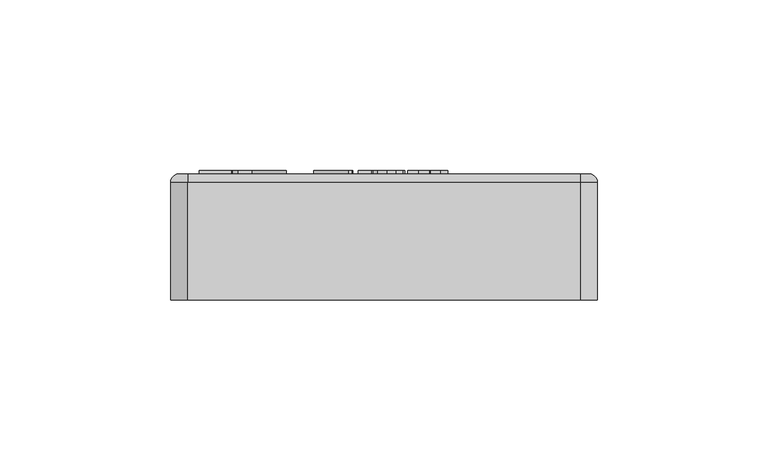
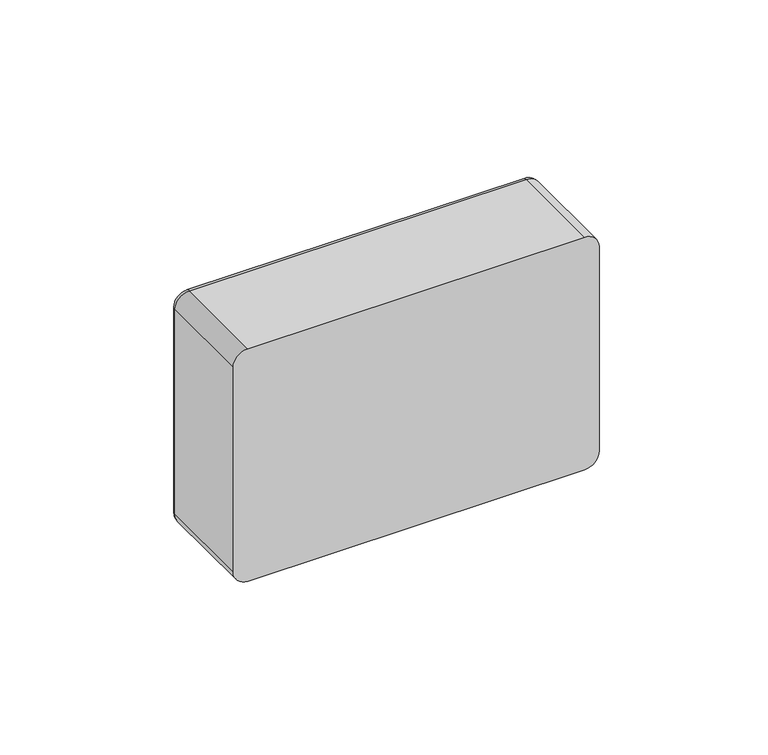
"""IFC4 building model written with IfcOpenShell, lengths in millimetres: proxy geometry, RBZ_МодульСопряжения_Рубеж_МС-1(2) : МС-1."""

from ifc_helpers import new_model, si_unit, point, frame, frame_2d, origin, place, context, project, spatial, polyline, circle_curve, ellipse_curve, trimmed, segment, composite_curve, outline, extrude, source, transform, mapped, element, save
from ifc_brep_helpers import plane_surface, cylinder_surface, revolved_surface, advanced_brep


def electrical_equipment_8cd67339(model_context):
    return source(origin(), model_context, "Body", "SolidModel", [
        extrude(outline(composite_curve([segment(trimmed(circle_curve(frame_2d((41.0715355, -15.5310303)), 5.0), [point((41.0715355, -10.5310303))], [point((41.0715355, -20.5310303))], False, "CARTESIAN"), True, "CONTINUOUS"), segment(trimmed(circle_curve(frame_2d((41.0715355, -15.5310303)), 5.0), [point((41.0715355, -20.5310303))], [point((41.0715355, -10.5310303))], False, "CARTESIAN"), True, "CONTINUOUS")], self_intersect=False)), frame((0.0, 37.0, 0.0), z_axis=(0.0, 1.0, 0.0), x_axis=(0.0, 0.0, 1.0)), (0.0, 0.0, 1.0), 1.0),
        extrude(outline(composite_curve([segment(trimmed(circle_curve(frame_2d((57.9165344, -33.5937399)), 5.0), [point((57.9165344, -28.5937399))], [point((57.9165344, -38.5937399))], False, "CARTESIAN"), True, "CONTINUOUS"), segment(trimmed(circle_curve(frame_2d((57.9165344, -33.5937399)), 5.0), [point((57.9165344, -38.5937399))], [point((57.9165344, -28.5937399))], False, "CARTESIAN"), True, "CONTINUOUS")], self_intersect=False)), frame((0.0, 37.0, 0.0), z_axis=(0.0, 1.0, 0.0), x_axis=(0.0, 0.0, 1.0)), (0.0, 0.0, 1.0), 1.0),
        extrude(outline(composite_curve([segment(trimmed(circle_curve(frame_2d((41.0715355, -33.5937399)), 5.0), [point((41.0715355, -28.5937399))], [point((41.0715355, -38.5937399))], False, "CARTESIAN"), True, "CONTINUOUS"), segment(trimmed(circle_curve(frame_2d((41.0715355, -33.5937399)), 5.0), [point((41.0715355, -38.5937399))], [point((41.0715355, -28.5937399))], False, "CARTESIAN"), True, "CONTINUOUS")], self_intersect=False)), frame((0.0, 37.0, 0.0), z_axis=(0.0, 1.0, 0.0), x_axis=(0.0, 0.0, 1.0)), (0.0, 0.0, 1.0), 1.0),
        extrude(outline(polyline([(16.8535228, -44.5809835), (16.8535228, -54.095442), (12.2150397, -52.2213731), (12.2150397, -50.4073043), (7.3266777, -53.9589072), (7.3266777, -51.3726746), (9.499446, -49.9616623), (9.499446, -38.6689562), (19.7294115, -42.8021305), (17.6170136, -44.3368775), (11.5052734, -41.8675742), (11.5052734, -48.3058879), (13.9791295, -46.699347), (13.9791295, -50.735573), (14.8288565, -51.078885), (14.8288565, -46.0654671), (12.2150397, -45.0094166), (12.2150397, -42.7069147), (16.8535228, -44.5809835)])), frame((0.0, 37.0, 0.0), z_axis=(0.0, 1.0, 0.0), x_axis=(0.0, 0.0, 1.0)), (0.0, 0.0, 1.0), 1.0),
        extrude(outline(polyline([(8.679106, 12.7656817), (8.679106, 14.709033), (17.1053555, 15.1138978), (8.679106, 16.6523842), (8.679106, 18.6235699), (18.8817, 16.538516), (18.8817, 13.5627594), (11.5738896, 13.2515195), (18.8817, 10.0556177), (18.8817, 6.9280368), (8.679106, 8.8435536), (8.679106, 10.8223305), (17.1002947, 9.1218982), (8.679106, 12.7656817)])), frame((0.0, 37.0, 0.0), z_axis=(0.0, 1.0, 0.0), x_axis=(0.0, 0.0, 1.0)), (0.0, 0.0, 1.0), 1.0),
        extrude(outline(polyline([(11.9180247, -0.5138851), (11.670045, -2.4572363), (9.3268897, -0.6328141), (8.51716, 2.2164222), (9.64066, 5.0909626), (12.9023524, 6.1258983), (16.078011, 5.4224457), (18.2807287, 3.4727684), (19.0436459, 0.7589088), (18.1807777, -1.9068732), (15.8300312, -3.1050201), (15.6427812, -1.1616688), (16.8788842, -0.4999678), (17.2622406, 0.8069865), (16.7346511, 2.4757887), (15.0873573, 3.7169525), (12.8517443, 4.1825471), (10.9640619, 3.576515), (10.2985653, 2.0671283), (10.7072258, 0.5299071), (11.9180247, -0.5138851)])), frame((0.0, 37.0, 0.0), z_axis=(0.0, 1.0, 0.0), x_axis=(0.0, 0.0, 1.0)), (0.0, 0.0, 1.0), 1.0),
        extrude(outline(polyline([(13.3755381, -3.5908579), (13.3755381, -7.4775603), (11.4321869, -7.1536685), (11.4321869, -3.266966), (13.3755381, -3.5908579)])), frame((0.0, 37.0, 0.0), z_axis=(0.0, 1.0, 0.0), x_axis=(0.0, 0.0, 1.0)), (0.0, 0.0, 1.0), 1.0),
        extrude(outline(polyline([(14.5091597, -9.0970197), (16.290565, -9.4209116), (18.8817, -13.3076141), (18.8817, -14.6234248), (8.679106, -12.53331), (8.679106, -10.5545331), (15.7186934, -11.9968641), (14.9823455, -10.5570635), (14.5091597, -9.0970197)])), frame((0.0, 37.0, 0.0), z_axis=(0.0, 1.0, 0.0), x_axis=(0.0, 0.0, 1.0)), (0.0, 0.0, 1.0), 1.0),
        extrude(outline(composite_curve([segment(trimmed(circle_curve(frame_2d((74.0, -52.5)), 5.0), [point((79.0, -52.5))], [point((74.0, -57.5))], False, "CARTESIAN"), True, "CONTINUOUS"), segment(polyline([(74.0, -57.5), (10.0, -57.5)]), True, "CONTINUOUS"), segment(trimmed(circle_curve(frame_2d((10.0, -52.5)), 5.0), [point((10.0, -57.5))], [point((5.0, -52.5))], False, "CARTESIAN"), True, "CONTINUOUS"), segment(polyline([(5.0, -52.5), (5.0, 22.5)]), True, "CONTINUOUS"), segment(trimmed(circle_curve(frame_2d((10.0, 22.5)), 5.0), [point((5.0, 22.5))], [point((10.0, 27.5))], False, "CARTESIAN"), True, "CONTINUOUS"), segment(polyline([(10.0, 27.5), (15.0, 27.5)]), True, "CONTINUOUS"), segment(trimmed(circle_curve(frame_2d((25.0, 27.5)), 10.0), [point((15.0, 27.5))], [point((35.0, 27.5))], False, "CARTESIAN"), True, "CONTINUOUS"), segment(polyline([(35.0, 27.5), (74.0, 27.5)]), True, "CONTINUOUS"), segment(trimmed(circle_curve(frame_2d((74.0, 22.5)), 5.0), [point((74.0, 27.5))], [point((79.0, 22.5))], False, "CARTESIAN"), True, "CONTINUOUS"), segment(polyline([(79.0, 22.5), (79.0, -52.5)]), True, "CONTINUOUS")], self_intersect=False)), frame((0.0, 34.8836616, 0.0), z_axis=(0.0, 1.0, 0.0), x_axis=(0.0, 0.0, 1.0)), (0.0, 0.0, 1.0), 2.1163384),
        advanced_brep(
        [(-57.5, 37.0, 2.5), (-60.0, 37.0, 5.0), (-60.0, 37.0, 79.0), (-57.5, 37.0, 81.5), (57.5, 37.0, 81.5), (60.0, 37.0, 79.0), (60.0, 37.0, 5.0), (57.5, 37.0, 2.5), (27.5, 37.0, 74.0), (22.5, 37.0, 79.0), (-52.5, 37.0, 79.0), (-57.5, 37.0, 74.0), (-57.5, 37.0, 10.0), (-52.5, 37.0, 5.0), (22.5, 37.0, 5.0), (27.5, 37.0, 10.0), (27.5, 37.0, 15.0), (27.5, 37.0, 35.0), (-57.5, 0.0, 84.0), (-62.5, 0.0, 79.0), (-62.5, 0.0, 5.0), (-57.5, 0.0, 0.0), (57.5, 0.0, 0.0), (62.5, 0.0, 5.0), (62.5, 0.0, 79.0), (57.5, 0.0, 84.0), (57.5, 34.5, 84.0), (-57.5, 34.5, 84.0), (62.5, 34.5000019, 79.0), (62.5, 34.5, 5.0), (57.5, 34.5000016, 0.0), (-57.5, 34.5000019, 0.0), (-62.5, 34.5000019, 5.0), (-62.5, 34.5, 79.0), (22.5, 15.7482615, 79.0), (27.5, 15.7482615, 74.0), (27.5, 15.7482615, 35.0), (27.5, 15.7482615, 15.0), (27.5, 15.7482615, 10.0), (22.5, 15.7482615, 5.0), (-52.5, 15.7482615, 5.0), (-57.5, 15.7482615, 10.0), (-57.5, 15.7482615, 74.0), (-52.5, 15.7482615, 79.0)],
        [
            (0, 1, circle_curve(frame((-57.5, 37.0, 5.0), z_axis=(0.0, 1.0, 0.0), x_axis=(0.0, 0.0, -1.0)), 2.5)),
            (1, 2),
            (2, 3, circle_curve(frame((-57.5, 37.0, 79.0), z_axis=(0.0, 1.0, 0.0), x_axis=(-1.0, 0.0, 0.0)), 2.5)),
            (3, 4),
            (4, 5, circle_curve(frame((57.5, 37.0, 79.0), z_axis=(0.0, 1.0, 0.0), x_axis=(0.0, 0.0, 1.0)), 2.5)),
            (5, 6),
            (6, 7, circle_curve(frame((57.5, 37.0, 5.0), z_axis=(0.0, 1.0, 0.0), x_axis=(1.0, 0.0, 0.0)), 2.5)),
            (7, 0),
            (8, 9, circle_curve(frame((22.5, 37.0, 74.0), z_axis=(0.0, -1.0, 0.0), x_axis=(-1.0, 0.0, 0.0)), 5.0)),
            (9, 10),
            (10, 11, circle_curve(frame((-52.5, 37.0, 74.0), z_axis=(0.0, -1.0, 0.0), x_axis=(-1.0, 0.0, 0.0)), 5.0)),
            (11, 12),
            (12, 13, circle_curve(frame((-52.5, 37.0, 10.0), z_axis=(0.0, -1.0, 0.0), x_axis=(-1.0, 0.0, 0.0)), 5.0)),
            (13, 14),
            (14, 15, circle_curve(frame((22.5, 37.0, 10.0), z_axis=(0.0, -1.0, 0.0), x_axis=(-1.0, 0.0, 0.0)), 5.0)),
            (15, 16),
            (16, 17, circle_curve(frame((27.5, 37.0, 25.0), z_axis=(0.0, -1.0, 0.0), x_axis=(-1.0, 0.0, 0.0)), 10.0)),
            (17, 8),
            (18, 19, circle_curve(frame((-57.5, 0.0, 79.0), z_axis=(0.0, -1.0, 0.0), x_axis=(-1.0, 0.0, 0.0)), 5.0)),
            (19, 20),
            (20, 21, circle_curve(frame((-57.5, 0.0, 5.0), z_axis=(0.0, -1.0, 0.0), x_axis=(-1.0, 0.0, 0.0)), 5.0)),
            (21, 22),
            (22, 23, circle_curve(frame((57.5, 0.0, 5.0), z_axis=(0.0, -1.0, 0.0), x_axis=(-1.0, 0.0, 0.0)), 5.0)),
            (23, 24),
            (24, 25, circle_curve(frame((57.5, 0.0, 79.0), z_axis=(0.0, -1.0, 0.0), x_axis=(-1.0, 0.0, 0.0)), 5.0)),
            (25, 18),
            (25, 26),
            (26, 27),
            (27, 18),
            (24, 28),
            (28, 26, circle_curve(frame((57.5, 34.5, 79.0), z_axis=(0.0, -1.0, 0.0), x_axis=(-1.0, 0.0, 0.0)), 5.0)),
            (23, 29),
            (29, 28),
            (22, 30),
            (30, 29, circle_curve(frame((57.5, 34.5, 5.0), z_axis=(0.0, -1.0, 0.0), x_axis=(-1.0, 0.0, 0.0)), 5.0)),
            (21, 31),
            (31, 30),
            (20, 32),
            (32, 31, circle_curve(frame((-57.5, 34.5, 5.0), z_axis=(0.0, -1.0, 0.0), x_axis=(-1.0, 0.0, 0.0)), 5.0)),
            (19, 33),
            (33, 32),
            (27, 33, circle_curve(frame((-57.5, 34.5, 79.0), z_axis=(0.0, -1.0, 0.0), x_axis=(-1.0, 0.0, 0.0)), 5.0)),
            (34, 35, circle_curve(frame((22.5, 15.7482615, 74.0), z_axis=(0.0, 1.0, 0.0), x_axis=(-1.0, 0.0, 0.0)), 5.0)),
            (35, 36),
            (36, 37, circle_curve(frame((27.5, 15.7482615, 25.0), z_axis=(0.0, 1.0, 0.0), x_axis=(-1.0, 0.0, 0.0)), 10.0)),
            (37, 38),
            (38, 39, circle_curve(frame((22.5, 15.7482615, 10.0), z_axis=(0.0, 1.0, 0.0), x_axis=(-1.0, 0.0, 0.0)), 5.0)),
            (39, 40),
            (40, 41, circle_curve(frame((-52.5, 15.7482615, 10.0), z_axis=(0.0, 1.0, 0.0), x_axis=(-1.0, 0.0, 0.0)), 5.0)),
            (41, 42),
            (42, 43, circle_curve(frame((-52.5, 15.7482615, 74.0), z_axis=(0.0, 1.0, 0.0), x_axis=(-1.0, 0.0, 0.0)), 5.0)),
            (43, 34),
            (34, 9),
            (8, 35),
            (17, 36),
            (16, 37),
            (15, 38),
            (14, 39),
            (13, 40),
            (12, 41),
            (11, 42),
            (10, 43),
            (32, 1, circle_curve(frame((-60.0, 34.5, 5.0), z_axis=(0.0, 0.0, -1.0), x_axis=(1.0, 0.0, 0.0)), 2.5)),
            (0, 31, circle_curve(frame((-57.5, 34.5, 2.5), z_axis=(-1.0, 0.0, 0.0), x_axis=(0.0, 0.0, 1.0)), 2.5)),
            (33, 2, circle_curve(frame((-60.0, 34.5, 79.0), z_axis=(0.0, 0.0, -1.0), x_axis=(1.0, 0.0, 0.0)), 2.5)),
            (27, 3, circle_curve(frame((-57.5, 34.5, 81.5), z_axis=(-1.0, 0.0, 0.0), x_axis=(0.0, 0.0, -1.0)), 2.5)),
            (26, 4, circle_curve(frame((57.5, 34.5, 81.5), z_axis=(-1.0, 0.0, 0.0), x_axis=(0.0, 0.0, -1.0)), 2.5)),
            (28, 5, circle_curve(frame((60.0, 34.5, 79.0), z_axis=(0.0, 0.0, 1.0), x_axis=(-1.0, 0.0, 0.0)), 2.5)),
            (29, 6, circle_curve(frame((60.0, 34.5, 5.0), z_axis=(0.0, 0.0, 1.0), x_axis=(-1.0, 0.0, 0.0)), 2.5)),
            (30, 7, circle_curve(frame((57.5, 34.5, 2.5), z_axis=(1.0, 0.0, 0.0), x_axis=(0.0, 0.0, 1.0)), 2.5)),
        ],
        [
            plane_surface(frame((62.5, 37.0, 84.0), z_axis=(0.0, 1.0, 0.0), x_axis=(1.0, 0.0, 0.0))),
            plane_surface(frame((62.5, 0.0, 84.0), z_axis=(0.0, -1.0, 0.0), x_axis=(-1.0, 0.0, 0.0))),
            plane_surface(frame((-57.5, 37.0, 84.0), z_axis=(0.0, 0.0, 1.0), x_axis=(0.0, -1.0, 0.0))),
            cylinder_surface(frame((57.5, 0.0, 79.0), z_axis=(0.0, 1.0, 0.0), x_axis=(-1.0, 0.0, 0.0)), 5.0),
            plane_surface(frame((62.5, 37.0, 79.0), z_axis=(1.0, 0.0, 0.0), x_axis=(0.0, -1.0, 0.0))),
            cylinder_surface(frame((57.5, 0.0, 5.0), z_axis=(0.0, 1.0, 0.0), x_axis=(-1.0, 0.0, 0.0)), 5.0),
            plane_surface(frame((57.5, 37.0, 0.0), z_axis=(0.0, 0.0, -1.0), x_axis=(0.0, -1.0, 0.0))),
            cylinder_surface(frame((-57.5, 0.0, 5.0), z_axis=(0.0, 1.0, 0.0), x_axis=(-1.0, 0.0, 0.0)), 5.0),
            plane_surface(frame((-62.5, 37.0, 5.0), z_axis=(-1.0, 0.0, 0.0), x_axis=(0.0, -1.0, 0.0))),
            cylinder_surface(frame((-57.5, 0.0, 79.0), z_axis=(0.0, 1.0, 0.0), x_axis=(-1.0, 0.0, 0.0)), 5.0),
            plane_surface(frame((17.5, 15.7482615, 74.0), z_axis=(0.0, 1.0, 0.0), x_axis=(0.0, 0.0, -1.0))),
            revolved_surface(polyline([(17.5, 37.0, 74.0), (17.5, 15.7482615, 74.0)]), (22.5, 15.7482615, 74.0), (0.0, 1.0, 0.0)),
            plane_surface(frame((27.5, 37.0, 74.0), z_axis=(-1.0, 0.0, 0.0), x_axis=(0.0, -1.0, 0.0))),
            revolved_surface(polyline([(17.5, 37.0, 25.0), (17.5, 15.7482615, 25.0)]), (27.5, 15.7482615, 25.0), (0.0, 1.0, 0.0)),
            plane_surface(frame((27.5, 37.0, 15.0), z_axis=(-1.0, 0.0, 0.0), x_axis=(0.0, -1.0, 0.0))),
            revolved_surface(polyline([(17.5, 37.0, 10.0), (17.5, 15.7482615, 10.0)]), (22.5, 15.7482615, 10.0), (0.0, 1.0, 0.0)),
            plane_surface(frame((22.5, 37.0, 5.0), z_axis=(0.0, 0.0, 1.0), x_axis=(0.0, -1.0, 0.0))),
            revolved_surface(polyline([(-57.5, 37.0, 10.0), (-57.5, 15.7482615, 10.0)]), (-52.5, 15.7482615, 10.0), (0.0, 1.0, 0.0)),
            plane_surface(frame((-57.5, 37.0, 10.0), z_axis=(1.0, 0.0, 0.0), x_axis=(0.0, -1.0, 0.0))),
            revolved_surface(polyline([(-57.5, 37.0, 74.0), (-57.5, 15.7482615, 74.0)]), (-52.5, 15.7482615, 74.0), (0.0, 1.0, 0.0)),
            plane_surface(frame((-52.5, 37.0, 79.0), z_axis=(0.0, 0.0, -1.0), x_axis=(0.0, -1.0, 0.0))),
            revolved_surface(trimmed(ellipse_curve(frame((-57.5, 34.5, 2.5), z_axis=(1.0, 0.0, 0.0), x_axis=(0.0, 0.0, 1.0)), 2.5, 2.5), [point((-57.5, 34.5, 0.0))], [point((-57.5, 37.0, 2.5))], True, "CARTESIAN"), (-57.5, 37.0, 5.0), (0.0, 1.0, 0.0)),
            cylinder_surface(frame((-60.0, 34.5, 5.0), z_axis=(0.0, 0.0, 1.0), x_axis=(1.0, 0.0, 0.0)), 2.5),
            revolved_surface(trimmed(ellipse_curve(frame((-60.0, 34.5, 79.0), z_axis=(0.0, 0.0, -1.0), x_axis=(1.0, 0.0, 0.0)), 2.5, 2.5), [point((-62.5, 34.5, 79.0))], [point((-60.0, 37.0, 79.0))], True, "CARTESIAN"), (-57.5, 37.0, 79.0), (0.0, 1.0, 0.0)),
            cylinder_surface(frame((-57.5, 34.5, 81.5), z_axis=(1.0, 0.0, 0.0), x_axis=(0.0, 0.0, -1.0)), 2.5),
            revolved_surface(trimmed(ellipse_curve(frame((57.5, 34.5, 81.5), z_axis=(-1.0, 0.0, 0.0), x_axis=(0.0, 0.0, -1.0)), 2.5, 2.5), [point((57.5, 34.5, 84.0))], [point((57.5, 37.0, 81.5))], True, "CARTESIAN"), (57.5, 37.0, 79.0), (0.0, 1.0, 0.0)),
            cylinder_surface(frame((60.0, 34.5, 79.0), z_axis=(0.0, 0.0, -1.0), x_axis=(-1.0, 0.0, 0.0)), 2.5),
            revolved_surface(trimmed(ellipse_curve(frame((60.0, 34.5, 5.0), z_axis=(0.0, 0.0, 1.0), x_axis=(-1.0, 0.0, 0.0)), 2.5, 2.5), [point((62.5, 34.5, 5.0))], [point((60.0, 37.0, 5.0))], True, "CARTESIAN"), (57.5, 37.0, 5.0), (0.0, 1.0, 0.0)),
            cylinder_surface(frame((57.5, 34.5, 2.5), z_axis=(-1.0, 0.0, 0.0), x_axis=(0.0, 0.0, 1.0)), 2.5),
        ],
        [
            (0, [[1, 2, 3, 4, 5, 6, 7, 8], [9, 10, 11, 12, 13, 14, 15, 16, 17, 18]]),
            (1, [[19, 20, 21, 22, 23, 24, 25, 26]]),
            (2, [[-26, 27, 28, 29]]),
            (3, [[-25, 30, 31, -27]]),
            (4, [[-24, 32, 33, -30]]),
            (5, [[-23, 34, 35, -32]]),
            (6, [[-22, 36, 37, -34]]),
            (7, [[-21, 38, 39, -36]]),
            (8, [[-20, 40, 41, -38]]),
            (9, [[-19, -29, 42, -40]]),
            (10, [[43, 44, 45, 46, 47, 48, 49, 50, 51, 52]]),
            (11, [[-43, 53, -9, 54]]),
            (12, [[-44, -54, -18, 55]]),
            (13, [[-45, -55, -17, 56]]),
            (14, [[-46, -56, -16, 57]]),
            (15, [[-47, -57, -15, 58]]),
            (16, [[-48, -58, -14, 59]]),
            (17, [[-49, -59, -13, 60]]),
            (18, [[-50, -60, -12, 61]]),
            (19, [[-51, -61, -11, 62]]),
            (20, [[-52, -62, -10, -53]]),
            (21, [[63, -1, 64, -39]]),
            (22, [[-63, -41, 65, -2]]),
            (23, [[-65, -42, 66, -3]]),
            (24, [[-66, -28, 67, -4]]),
            (25, [[-67, -31, 68, -5]]),
            (26, [[-68, -33, 69, -6]]),
            (27, [[-69, -35, 70, -7]]),
            (28, [[-64, -8, -70, -37]]),
        ],
    ),
    ])


if __name__ == "__main__":
    model = new_model("IFC4")
    model_context = context("Model", 3, world=origin())
    ifc_project = project(units=[si_unit("LENGTHUNIT", "METRE", prefix="MILLI")], contexts=[model_context])
    site = spatial("IfcSite", under=ifc_project)
    building = spatial("IfcBuilding", under=site)
    placement = place(None, origin())
    electrical_equipment_shape = electrical_equipment_8cd67339(model_context)
    element("IfcBuildingElementProxy", 1, Name="RBZ_МодульСопряжения_Рубеж_МС-1(2) : МС-1", ObjectType="RBZ_МодульСопряжения_Рубеж_МС-1(2) : МС-1", at=placement, inside=building, context=model_context, shape_type="MappedRepresentation", body=[
        mapped(electrical_equipment_shape, transform((0.0, 0.0, 0.0), x_axis=(1.0, 0.0, 0.0), y_axis=(0.0, 1.0, 0.0), z_axis=(0.0, 0.0, 1.0))),
    ])
    save(model, "model.ifc")
